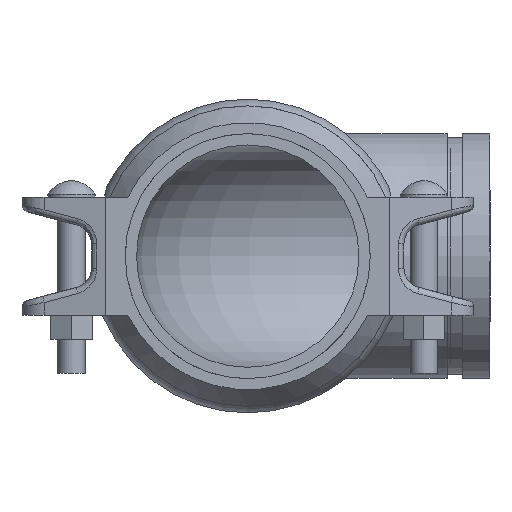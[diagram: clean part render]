
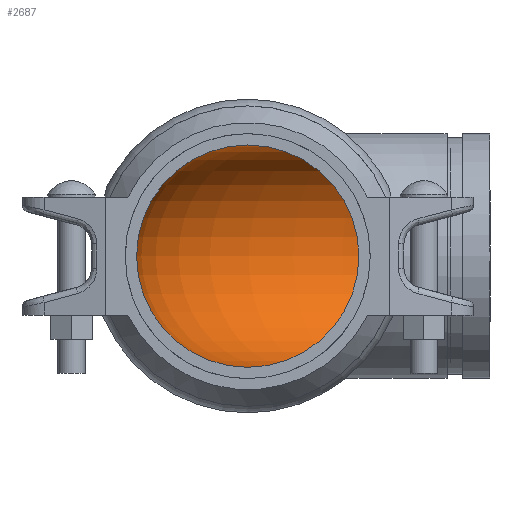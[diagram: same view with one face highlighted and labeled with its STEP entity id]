
A CAD part, left-side view. The second image highlights one B-rep face of the part: STEP entity #2687.
In plain terms, the highlighted toroidal (fillet/blend) face has major radius 116.688 mm and minor radius 64.097 mm.
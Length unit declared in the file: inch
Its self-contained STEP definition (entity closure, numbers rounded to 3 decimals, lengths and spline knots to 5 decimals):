
#102=TOROIDAL_SURFACE('',#2950,4.594,2.5235);
#576=FACE_OUTER_BOUND('',#731,.T.);
#731=EDGE_LOOP('',(#1717,#1718,#1719,#1720,#1721,#1722));
#907=CIRCLE('',#2947,2.5235);
#908=CIRCLE('',#2948,2.5235);
#910=CIRCLE('',#2951,2.5235);
#911=CIRCLE('',#2952,2.0705);
#912=CIRCLE('',#2953,2.5235);
#1051=VERTEX_POINT('',#4366);
#1052=VERTEX_POINT('',#4367);
#1054=VERTEX_POINT('',#4374);
#1055=VERTEX_POINT('',#4375);
#1313=EDGE_CURVE('',#1051,#1052,#907,.T.);
#1314=EDGE_CURVE('',#1052,#1051,#908,.T.);
#1317=EDGE_CURVE('',#1054,#1055,#910,.T.);
#1318=EDGE_CURVE('',#1055,#1052,#911,.T.);
#1319=EDGE_CURVE('',#1055,#1054,#912,.T.);
#1717=ORIENTED_EDGE('',*,*,#1317,.T.);
#1718=ORIENTED_EDGE('',*,*,#1318,.T.);
#1719=ORIENTED_EDGE('',*,*,#1313,.F.);
#1720=ORIENTED_EDGE('',*,*,#1314,.F.);
#1721=ORIENTED_EDGE('',*,*,#1318,.F.);
#1722=ORIENTED_EDGE('',*,*,#1319,.T.);
#2687=ADVANCED_FACE('',(#576),#102,.F.);
#2947=AXIS2_PLACEMENT_3D('',#4368,#3290,#3291);
#2948=AXIS2_PLACEMENT_3D('',#4369,#3292,#3293);
#2950=AXIS2_PLACEMENT_3D('',#4373,#3297,#3298);
#2951=AXIS2_PLACEMENT_3D('',#4376,#3299,#3300);
#2952=AXIS2_PLACEMENT_3D('',#4377,#3301,#3302);
#2953=AXIS2_PLACEMENT_3D('',#4378,#3303,#3304);
#3290=DIRECTION('center_axis',(0.,1.,0.));
#3291=DIRECTION('ref_axis',(1.,0.,0.));
#3292=DIRECTION('center_axis',(0.,1.,0.));
#3293=DIRECTION('ref_axis',(1.,0.,0.));
#3297=DIRECTION('center_axis',(0.,0.,1.));
#3298=DIRECTION('ref_axis',(1.,0.,0.));
#3299=DIRECTION('center_axis',(1.,0.,0.));
#3300=DIRECTION('ref_axis',(0.,-1.,0.));
#3301=DIRECTION('center_axis',(0.,0.,1.));
#3302=DIRECTION('ref_axis',(1.,0.,0.));
#3303=DIRECTION('center_axis',(1.,0.,0.));
#3304=DIRECTION('ref_axis',(0.,-1.,0.));
#4366=CARTESIAN_POINT('',(-2.5235,-4.594,0.));
#4367=CARTESIAN_POINT('',(2.5235,-4.594,0.));
#4368=CARTESIAN_POINT('Origin',(0.,-4.594,0.));
#4369=CARTESIAN_POINT('Origin',(0.,-4.594,0.));
#4373=CARTESIAN_POINT('Origin',(4.594,-4.594,0.));
#4374=CARTESIAN_POINT('',(4.594,2.5235,0.));
#4375=CARTESIAN_POINT('',(4.594,-2.5235,0.));
#4376=CARTESIAN_POINT('Origin',(4.594,0.,0.));
#4377=CARTESIAN_POINT('Origin',(4.594,-4.594,0.));
#4378=CARTESIAN_POINT('Origin',(4.594,0.,0.));
